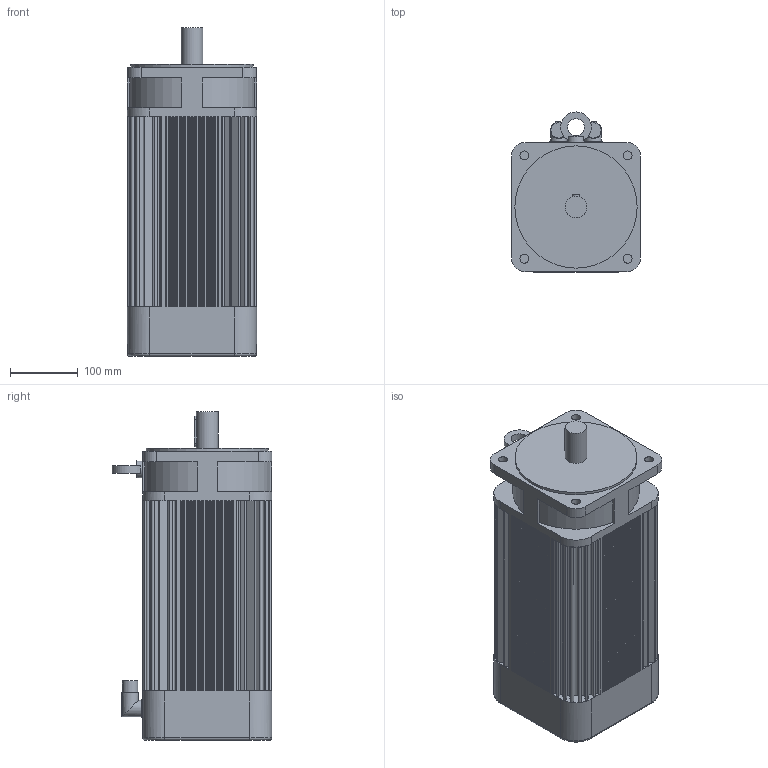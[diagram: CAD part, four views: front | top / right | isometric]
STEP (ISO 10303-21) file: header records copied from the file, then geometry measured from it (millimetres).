
FILE_DESCRIPTION(/* description */ (''),/* implementation_level */ '2;1');
FILE_NAME(/* name */ '\\Lafnas01\disegni\Archivi Lafert\3D\CAD 3D\MODELLI\Assiemi clienti\Serad\Modelli 3D Serad\B100I\Encoder\Enc Without Brake\B1054Ixx6ARx2033.ipt.stp',/* time_stamp */ '2015-09-07T10:47:34+02:00',/* author */ ('Pastrello Ylenia'),/* organization */ (''),/* preprocessor_version */ 'ST-DEVELOPER v15.6',/* originating_system */ 'Autodesk Inventor 2015',/* authorisation */ '');
FILE_SCHEMA (('AUTOMOTIVE_DESIGN { 1 0 10303 214 3 1 1 }'));
Length unit declared in the file: millimetre
Products named in the file (1): B1054Ixx6ARx2033
Bounding box: 190 x 235 x 484 mm (x, y, z)
Volume: 14252355.6 mm3; surface area: 566286.1 mm2
Topology: 1 solids, 1 shells, 608 faces, 1497 edges, 980 vertices
Faces by surface type: plane 499, cylinder 105, torus 4
Full cylindrical faces by diameter (mm): 13 x4, 22.7 x2, 24 x2, 25 x2, 32 x1, 180 x1
Entity records: 17791 total; most frequent: CARTESIAN_POINT 3128, DIRECTION 2992, ORIENTED_EDGE 2962, EDGE_CURVE 1481, LINE 1180, VECTOR 1180, VERTEX_POINT 977, AXIS2_PLACEMENT_3D 906
